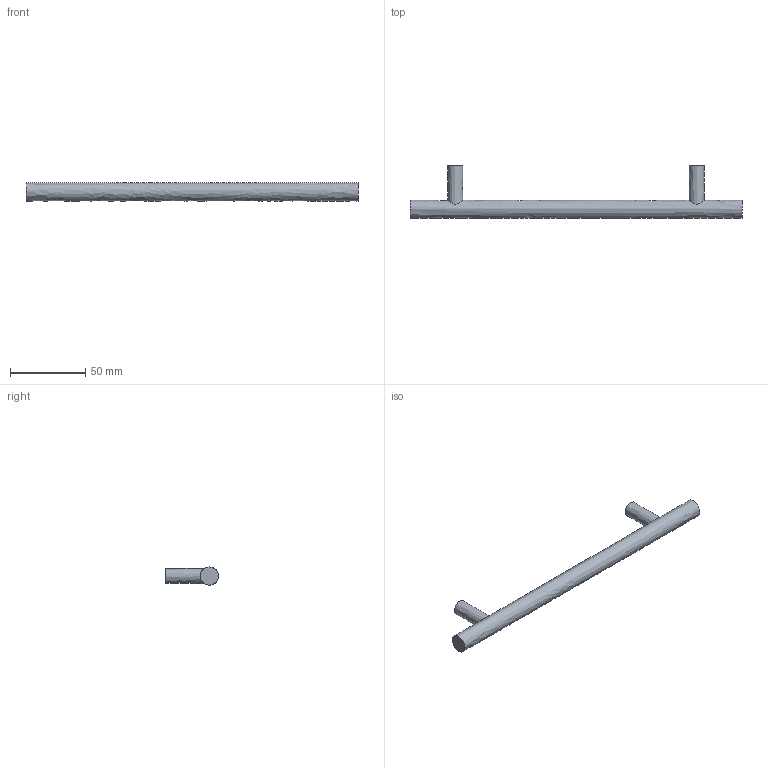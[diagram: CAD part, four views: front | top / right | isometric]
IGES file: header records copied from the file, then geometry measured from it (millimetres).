
Start section: Data from Parasolid IGES Translator 15.0.47, Copyright(c) 2006 Siemens P LM Software. All Rights Reserved.
Global section: file name: 9071008.igs; native system:  By UGS Corp.; preprocessor: XPlus GENERIC/IGES 3.0; author: Noname; organization: Noname; date: 20140122.181301; units: millimetre
Bounding box: 220 x 35 x 12 mm (x, y, z)
Surface area: 10325.3 mm2 (no closed solid volume)
Topology: 0 solids, 0 shells, 11 faces, 30 edges, 22 vertices
Faces by surface type: extrusion 6, revolution 5
